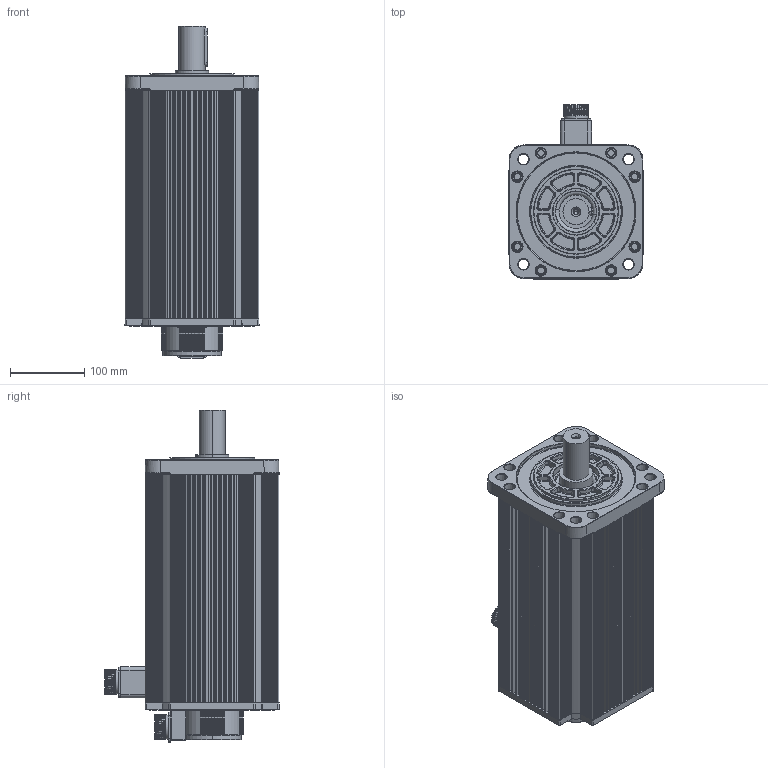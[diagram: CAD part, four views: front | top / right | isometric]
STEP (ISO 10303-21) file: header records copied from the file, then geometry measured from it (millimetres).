
FILE_DESCRIPTION (( 'STEP AP203' ), '1' );
FILE_NAME ('180zf1500r11kw.STEP', '2024-10-23T06:08:06', ( 'MicroSoft' ), ( 'MicroSoft' ), 'SwSTEP 2.0', 'SolidWorks 2020', '' );
FILE_SCHEMA (( 'CONFIG_CONTROL_DESIGN' ));
Length unit declared in the file: millimetre
Products named in the file (14): 180 平键（14-9-91）; 180zf1500r11kw; Z航插15芯（公头电机端）28; 180堤盄碟; Z130A-01-02(编码器后罩壳）; 180綴粣創; Z航空插头-4芯（公头电机端）32; 180呿蹋晤鎢ん欶褲; 180后端盖 新款 1_制动后盖1; 180ヶ傷裔陔遴 1; Z130A-01-03(编码器后罩壳封盖）; Z180-01-01A(180电机轴-锥轴全系列)-3000_5.5KW; 180-X陔遴儂褲_11陔遴; 180ヶ粣創
Assembly tree (13 placements, depth 3):
  180zf1500r11kw
    180-X陔遴儂褲_11陔遴
    180ヶ傷裔陔遴 1
    180后端盖 新款 1_制动后盖1
    Z180-01-01A(180电机轴-锥轴全系列)-3000_5.5KW
    180ヶ粣創
    180綴粣創
    180堤盄碟
    Z航空插头-4芯（公头电机端）32
    Z航插15芯（公头电机端）28
    180 平键（14-9-91）
    180呿蹋晤鎢ん欶褲
      Z130A-01-02(编码器后罩壳）
    Z130A-01-03(编码器后罩壳封盖）
Bounding box: 180.31 x 234.51 x 446.5 mm (x, y, z)
Volume: 2940713.3 mm3; surface area: 849579.7 mm2
Topology: 12 solids, 12 shells, 4850 faces, 12502 edges, 7711 vertices
Faces by surface type: cylinder 1831, plane 1351, bspline 688, torus 506, cone 292, sphere 182
Entity records: 179653 total; most frequent: CARTESIAN_POINT 62739, ORIENTED_EDGE 24652, DIRECTION 24283, EDGE_CURVE 12326, AXIS2_PLACEMENT_3D 9383, VERTEX_POINT 7677, VECTOR 5517, LINE 5517
